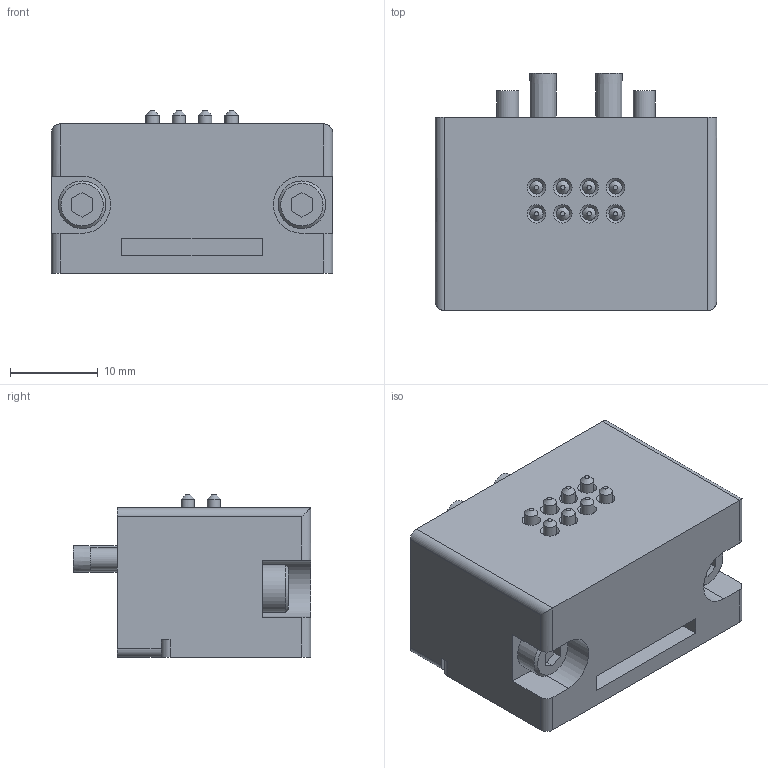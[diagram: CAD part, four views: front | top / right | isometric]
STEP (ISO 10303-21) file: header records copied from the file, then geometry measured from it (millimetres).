
FILE_DESCRIPTION(('STEP AP214'),'1');
FILE_NAME('KHF-3HS-D38_ver1.stp','2026-04-24T01:55:27',(' '),(' '),'Spatial InterOp 3D',' ',' ');
FILE_SCHEMA(('AUTOMOTIVE_DESIGN { 1 0 10303 214 1 1 1 1 }'));
Length unit declared in the file: millimetre
Products named in the file (1): KHF-3HS-D38_ver1
Bounding box: 32 x 27 x 18.5 mm (x, y, z)
Volume: 11080.9 mm3; surface area: 5237.5 mm2
Topology: 1 solids, 11 shells, 277 faces, 636 edges, 408 vertices
Faces by surface type: plane 191, cylinder 56, cone 30
Full cylindrical faces by diameter (mm): 1.5 x8, 2.15 x2, 2.5 x8, 3 x4, 3.5 x4, 5.41 x2
Entity records: 9626 total; most frequent: CARTESIAN_POINT 1310, DIRECTION 1264, ORIENTED_EDGE 1132, EDGE_CURVE 566, AXIS2_PLACEMENT_3D 422, LINE 420, VECTOR 420, VERTEX_POINT 396
